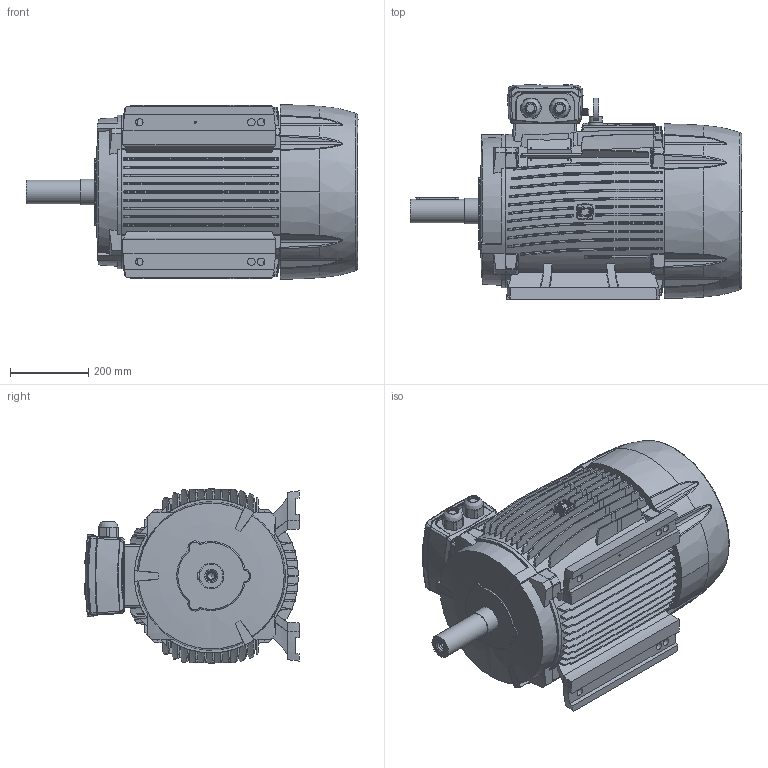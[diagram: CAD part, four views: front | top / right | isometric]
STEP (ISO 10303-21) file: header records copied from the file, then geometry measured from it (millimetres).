
FILE_DESCRIPTION((''),'2;1');
FILE_NAME('C:\xampp\htdocs\motive\source_step\M225M.stp','2019-04-10T09:33:12',('apache'),(''),'Autodesk Inventor 2013','Autodesk Inventor 2013','');
FILE_SCHEMA(('AUTOMOTIVE_DESIGN { 1 0 10303 214 1 1 1 1 }'));
Length unit declared in the file: millimetre
Products named in the file (9): M225M; FRA225MCB3; 3PNLOG160-200; 3PNLOG160-200_2; FCV225; B3225; SH225M_4_8P; GOLFARE_M16; TBOX225
Assembly tree (8 placements, depth 2):
  M225M
    FRA225MCB3
    3PNLOG160-200
    3PNLOG160-200_2
    FCV225
    B3225
    SH225M_4_8P
    GOLFARE_M16
    TBOX225
Bounding box: 847 x 548.06 x 445.29 mm (x, y, z)
Volume: 50670469.1 mm3; surface area: 3291942.1 mm2
Topology: 8 solids, 8 shells, 2276 faces, 6056 edges, 3914 vertices
Faces by surface type: plane 784, bspline 708, cylinder 411, torus 221, cone 146, sphere 6
Full cylindrical faces by diameter (mm): 2.5 x8, 4.8 x4, 5 x1, 6.8 x8, 9 x1, 10 x4, 10.2 x8, 14 x1, 15.8 x6, 16 x1, 17.3 x1, 17.5 x1, 19 x6, 21 x1, 21.39 x2, 27.72 x2, 32 x1, 33 x1, 60 x1, 64.97 x1, 65 x2, 368 x1, 372 x2, 378 x2
Entity records: 122445 total; most frequent: CARTESIAN_POINT 71145, ORIENTED_EDGE 11714, DIRECTION 8909, EDGE_CURVE 5857, VERTEX_POINT 3844, AXIS2_PLACEMENT_3D 3482, EDGE_LOOP 2575, FACE_OUTER_BOUND 2275
